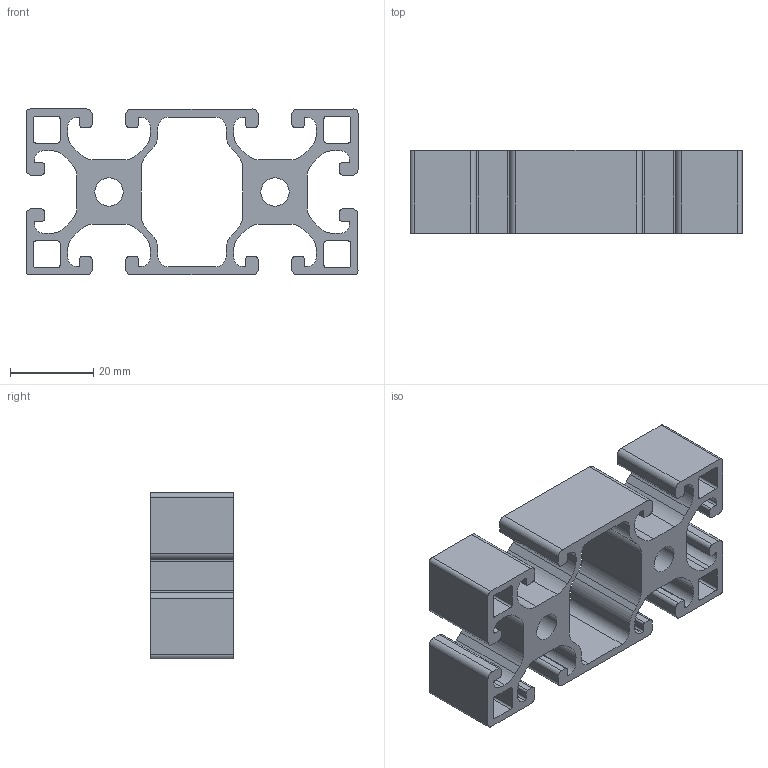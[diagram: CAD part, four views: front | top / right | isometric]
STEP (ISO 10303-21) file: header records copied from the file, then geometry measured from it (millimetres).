
FILE_DESCRIPTION(('STEP AP214'),'1');
FILE_NAME('cctmp_19C72FD8-2C76-44E1-A1F3-C6F40D51E00E_2023_04_28_14_12_27_0692_41972..stp','2023-04-28T12:12:27',('item Industrietechnik GmbH'),('CADClick - www.CADClick.com'),'Spatial InterOp 3D',' ','unknown authorization');
FILE_SCHEMA(('AUTOMOTIVE_DESIGN'));
Length unit declared in the file: millimetre
Products named in the file (2): item_0049294_Profile X 8 80x40 light_L=20; item_0049294_Profile X 8 80x40 light_L=20_1
Assembly tree (1 placements, depth 2):
  item_0049294_Profile X 8 80x40 light_L=20
    item_0049294_Profile X 8 80x40 light_L=20_1
Bounding box: 80 x 20 x 40 mm (x, y, z)
Volume: 22402.2 mm3; surface area: 17638.9 mm2
Topology: 1 solids, 1 shells, 238 faces, 708 edges, 472 vertices
Faces by surface type: cylinder 120, plane 118
Entity records: 10035 total; most frequent: DIRECTION 1428, CARTESIAN_POINT 1420, ORIENTED_EDGE 1416, EDGE_CURVE 708, AXIS2_PLACEMENT_3D 480, VERTEX_POINT 472, LINE 468, VECTOR 468
